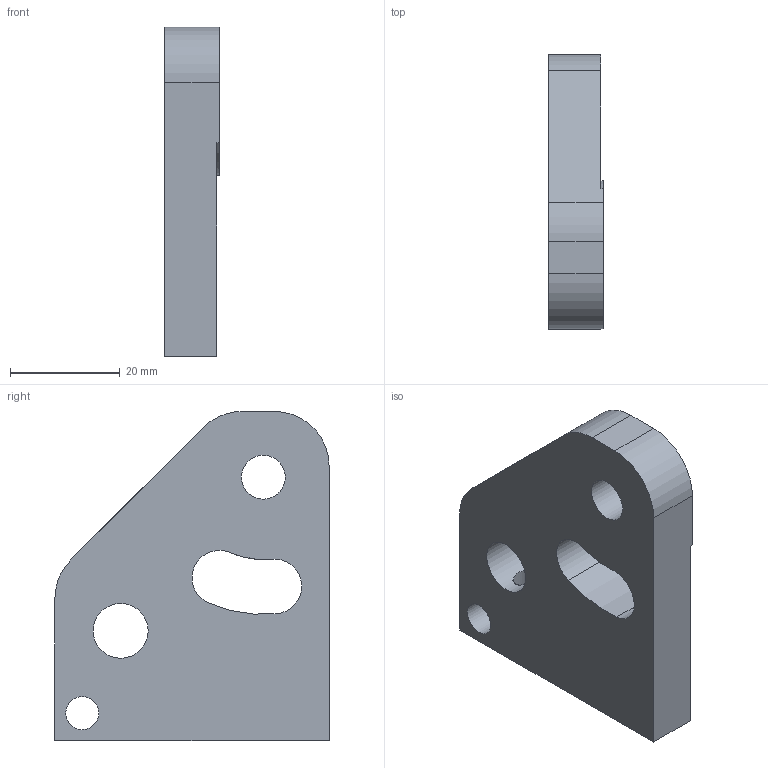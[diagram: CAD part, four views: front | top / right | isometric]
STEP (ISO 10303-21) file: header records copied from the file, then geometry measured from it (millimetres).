
FILE_DESCRIPTION(/* description */ ('STEP AP242','CAx-IF Rec.Pracs.---Representation and Presentation of Product Manufacturing Information (PMI)---4.0---2014-10-13','CAx-IF Rec.Pracs.---3D Tessellated Geometry---0.4---2014-09-14','2;1'),/* implementation_level */ '2;1');
FILE_NAME(/* name */ '67517101fb67772fa30a95f1',/* time_stamp */ '2024-12-05T09:23:27Z',/* author */ (''),/* organization */ (''),/* preprocessor_version */ 'ST-DEVELOPER v20',/* originating_system */ 'ONSHAPE BY PTC INC, 1.190',/* authorisation */ ' ');
FILE_SCHEMA (('AP242_MANAGED_MODEL_BASED_3D_ENGINEERING_MIM_LF { 1 0 10303 442 1 1 4 }'));
Length unit declared in the file: metre
Products named in the file (1): C15 - Lateral R
Bounding box: 10 x 50 x 60 mm (x, y, z)
Volume: 20448.1 mm3; surface area: 7958.1 mm2
Topology: 1 solids, 1 shells, 23 faces, 66 edges, 43 vertices
Faces by surface type: cylinder 12, plane 8, cone 3
Full cylindrical faces by diameter (mm): 5 x2, 6 x1, 8 x1, 10 x1
Entity records: 750 total; most frequent: CARTESIAN_POINT 135, DIRECTION 128, ORIENTED_EDGE 110, EDGE_CURVE 55, AXIS2_PLACEMENT_3D 51, VERTEX_POINT 40, FACE_BOUND 39, EDGE_LOOP 38
